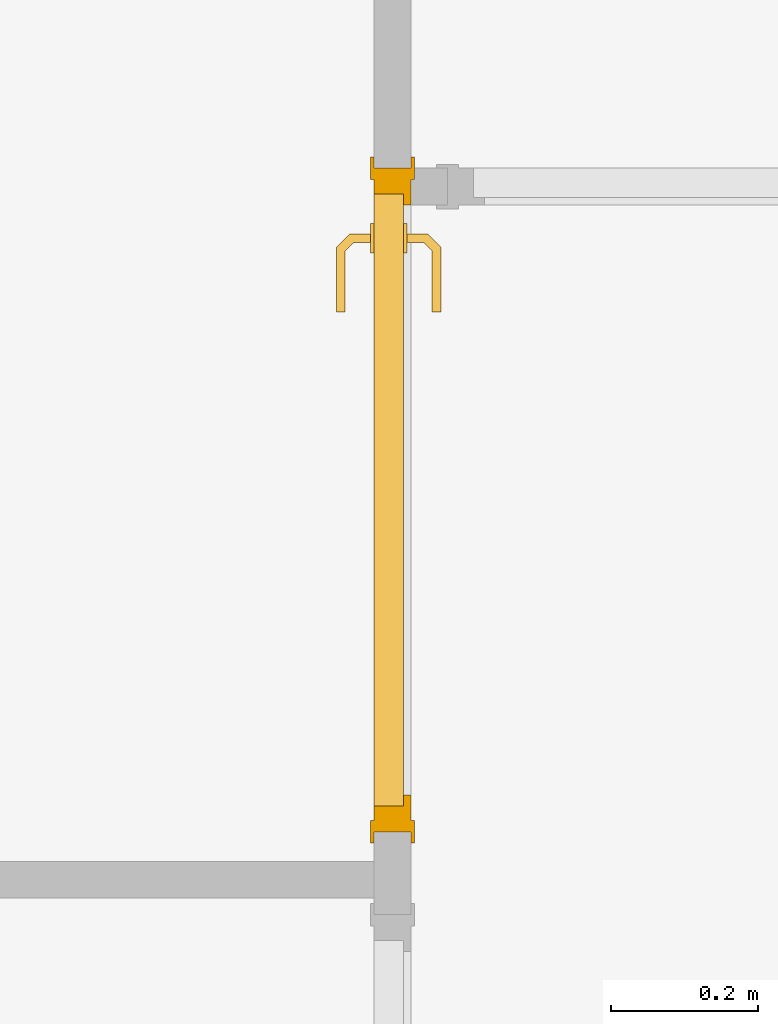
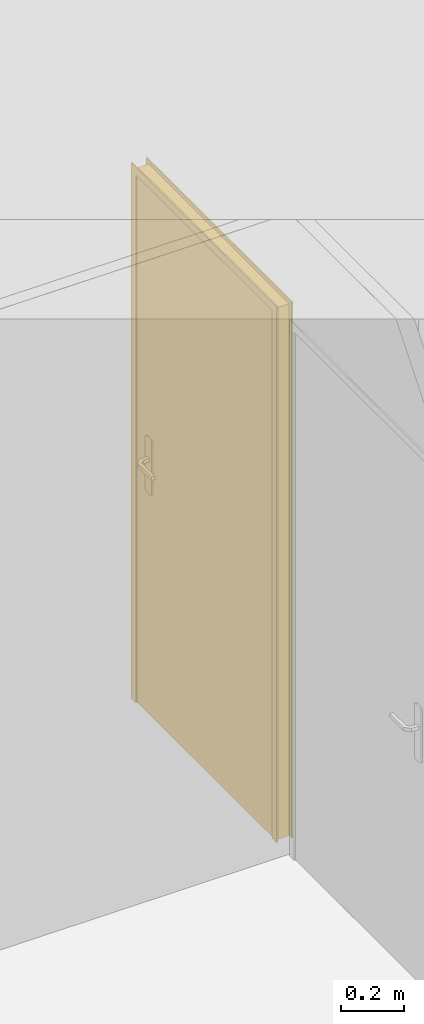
# One storey, part 11 of 14: 1 door.
"""IFC2X3 building model written with IfcOpenShell, lengths in millimetres."""

from ifc_helpers import new_model, entity, si_unit, converted_unit, direction, frame, origin, origin_with_axes, place, context, project, spatial, faceted_brep, element, save


model = new_model("IFC2X3")

# Units and contexts
model_context = context("Model", 3, precision=1e-05, world=origin(), true_north=direction((0.0, 1.0, 0.0)))
ifc_project = project(units=[si_unit("LENGTHUNIT", "METRE", prefix="MILLI"), si_unit("AREAUNIT", "SQUARE_METRE"), si_unit("VOLUMEUNIT", "CUBIC_METRE"), converted_unit("PLANEANGLEUNIT", "DEGREE", entity("IfcPlaneAngleMeasure", 0.01745), si_unit("PLANEANGLEUNIT", "RADIAN"), dimensions=[0, 0, 0, 0, 0, 0, 0]), si_unit("SOLIDANGLEUNIT", "STERADIAN"), si_unit("MASSUNIT", "GRAM"), si_unit("TIMEUNIT", "SECOND"), si_unit("THERMODYNAMICTEMPERATUREUNIT", "DEGREE_CELSIUS"), si_unit("LUMINOUSINTENSITYUNIT", "LUMEN")], contexts=[model_context])

# Site, building, storey
placement = place(None, origin_with_axes())
site_placement = place(placement, frame((11636.08881703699, 2815.7442167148, 4.768371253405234e-06), z_axis=(0.0, 0.0, 1.0), x_axis=(1.0, 0.0, 0.0)))
site = spatial("IfcSite", under=ifc_project, at=site_placement, Name="Surface", CompositionType="ELEMENT")
building_placement = place(placement, origin_with_axes())
building = spatial("IfcBuilding", under=site, at=building_placement, Name="Default Building", CompositionType="ELEMENT")
storey_placement = place(building_placement, origin_with_axes())
storey = spatial("IfcBuildingStorey", under=building, at=storey_placement, Name="Plan étage", CompositionType="ELEMENT", Elevation=0.0)

# Door
door_placement = place(storey_placement, frame((11636.08881703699, 2815.7442167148, 4.768371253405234e-06), z_axis=(0.0, 0.0, 1.0), x_axis=(1.0, 0.0, 0.0)))
element("IfcDoor", 1, at=door_placement, inside=storey, Name="IfcDoor - Int. Simple:PP (0.83m x 2.04m)", context=model_context, shape_type="Brep", body=[
    faceted_brep([(-1711.088818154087, 2369.255785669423, 2740.000042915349), (-1706.088819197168, 2399.255786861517, 2740.000042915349), (-1706.088819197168, 2369.255785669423, 2740.000042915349), (-1711.088818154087, 2399.255786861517, 2740.000042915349), (-1711.088818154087, 1499.255780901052, 2740.000042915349), (-1706.088819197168, 1469.255779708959, 2740.000042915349), (-1711.088818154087, 1469.255779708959, 2740.000042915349), (-1706.088819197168, 1499.255780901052, 2740.000042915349), (-1711.088818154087, 2369.255785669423, 4799.99998569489), (-1706.088819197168, 1499.255780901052, 4799.99998569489), (-1711.088818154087, 1499.255780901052, 4799.99998569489), (-1706.088819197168, 2369.255785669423, 4799.99998569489), (-1706.088819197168, 2399.255786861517, 4829.99995708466), (-1711.088818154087, 1469.255779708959, 4829.99995708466), (-1706.088819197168, 1469.255779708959, 4829.99995708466), (-1711.088818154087, 2399.255786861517, 4829.99995708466), (-1656.08881845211, 2369.255785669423, 4799.99998569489), (-1651.088819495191, 1499.255780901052, 4799.99998569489), (-1656.08881845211, 1499.255780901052, 4799.99998569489), (-1651.088819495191, 2369.255785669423, 4799.99998569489), (-1651.088819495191, 2399.255786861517, 4829.99995708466), (-1656.08881845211, 1469.255779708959, 4829.99995708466), (-1651.088819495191, 1469.255779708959, 4829.99995708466), (-1656.08881845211, 2399.255786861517, 4829.99995708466), (-1656.08881845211, 1469.255779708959, 2740.000042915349), (-1651.088819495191, 1469.255779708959, 2740.000042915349), (-1651.088819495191, 1499.255780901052, 2740.000042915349), (-1656.08881845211, 1499.255780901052, 2740.000042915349), (-1656.08881845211, 2369.255785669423, 2740.000042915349), (-1651.088819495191, 2369.255785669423, 2740.000042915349), (-1651.088819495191, 2399.255786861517, 2740.000042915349), (-1656.08881845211, 2399.255786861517, 2740.000042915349), (-1706.088819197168, 2349.255774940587, 4780.000004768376), (-1666.088819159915, 1519.255791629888, 4780.000004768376), (-1706.088819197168, 1519.255791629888, 4780.000004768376), (-1666.088819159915, 2349.255774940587, 4780.000004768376), (-1666.088819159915, 2334.255789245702, 4765.000019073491), (-1656.08881845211, 1534.255777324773, 4765.000019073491), (-1666.088819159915, 1534.255777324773, 4765.000019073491), (-1656.08881845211, 2334.255789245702, 4765.000019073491), (-1656.08881845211, 2384.255771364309, 4814.999971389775), (-1706.088819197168, 1484.255795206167, 4814.999971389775), (-1656.08881845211, 1484.255795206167, 4814.999971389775), (-1706.088819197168, 2384.255771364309, 4814.999971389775), (-1666.088819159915, 1519.255791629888, 2740.000042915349), (-1706.088819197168, 1519.255791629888, 2740.000042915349), (-1656.08881845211, 1534.255777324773, 2740.000042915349), (-1666.088819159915, 1534.255777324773, 2740.000042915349), (-1656.08881845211, 1484.255795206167, 2740.000042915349), (-1706.088819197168, 1484.255795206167, 2740.000042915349), (-1706.088819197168, 2349.255774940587, 2740.000042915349), (-1706.088819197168, 2384.255771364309, 2740.000042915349), (-1666.088819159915, 2349.255774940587, 2740.000042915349), (-1666.088819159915, 2334.255789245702, 2740.000042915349), (-1656.08881845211, 2334.255789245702, 2740.000042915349), (-1656.08881845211, 2384.255771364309, 2740.000042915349), (-1666.088819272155, 2349.255774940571, 4779.999980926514), (-1706.088818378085, 2349.255774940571, 2740.000019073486), (-1706.088818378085, 2349.255774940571, 4779.999980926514), (-1666.088819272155, 2349.255774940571, 2740.000019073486), (-1706.088818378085, 1519.255791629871, 2740.000019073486), (-1666.088819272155, 1519.255791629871, 2740.000019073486), (-1706.088818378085, 1519.255791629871, 4779.999980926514), (-1666.088819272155, 1519.255791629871, 4779.999980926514), (-1619.093037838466, 2275.094689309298, 3732.219558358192), (-1621.118336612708, 2231.313438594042, 3732.121313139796), (-1623.14362793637, 2273.41687630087, 3732.219558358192), (-1615.118331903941, 2236.810579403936, 3732.999999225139), (-1623.14362793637, 2189.210000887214, 3732.219558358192), (-1627.118333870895, 2230.490263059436, 3732.999999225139), (-1619.093037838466, 2189.210000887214, 3732.219558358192), (-1627.118333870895, 2189.210000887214, 3732.999999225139), (-1627.118333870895, 2271.770501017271, 3732.999999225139), (-1615.118331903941, 2276.741064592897, 3732.999999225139), (-1615.118331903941, 2189.210000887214, 3732.999999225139), (-1615.118331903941, 2236.810577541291, 3747.000001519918), (-1615.118331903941, 2189.210000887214, 3747.000001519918), (-1615.118331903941, 2276.741064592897, 3747.000001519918), (-1619.093037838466, 2189.210000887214, 3747.780442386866), (-1621.118336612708, 2231.313438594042, 3747.878685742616), (-1623.14362793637, 2189.210000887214, 3747.780442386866), (-1623.14362793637, 2273.41687630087, 3747.780442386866), (-1627.118333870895, 2230.49025002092, 3747.000001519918), (-1619.093037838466, 2275.094689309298, 3747.780442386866), (-1627.118333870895, 2189.210000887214, 3747.000001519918), (-1627.118333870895, 2271.770501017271, 3747.000001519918), (-1638.60361247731, 2283.255781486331, 3732.999999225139), (-1636.957239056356, 2287.230483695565, 3732.219558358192), (-1635.279427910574, 2291.28108124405, 3732.219558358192), (-1633.633050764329, 2295.255783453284, 3732.999999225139), (-1633.633050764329, 2295.255783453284, 3747.000001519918), (-1635.279427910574, 2291.28108124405, 3747.780442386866), (-1636.957239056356, 2287.230483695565, 3747.780442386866), (-1638.60361247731, 2283.255781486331, 3747.000001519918), (-1661.088818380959, 2283.255781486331, 3732.999999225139), (-1661.088818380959, 2287.230483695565, 3732.219558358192), (-1661.088818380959, 2291.28108124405, 3732.219558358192), (-1661.088818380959, 2295.255783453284, 3732.999999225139), (-1661.088818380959, 2295.255783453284, 3747.000001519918), (-1661.088818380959, 2291.28108124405, 3747.780442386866), (-1661.088818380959, 2287.230483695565, 3747.780442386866), (-1661.088818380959, 2283.255781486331, 3747.000001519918), (-1757.116980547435, 2189.237143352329, 3747.000001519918), (-1757.116980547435, 2236.94808266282, 3732.999999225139), (-1757.116980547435, 2189.237143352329, 3732.999999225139), (-1757.116980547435, 2276.878572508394, 3732.999999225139), (-1757.116980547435, 2276.878572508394, 3747.000001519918), (-1753.142274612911, 2189.237143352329, 3732.219558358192), (-1751.116983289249, 2231.395763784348, 3732.121313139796), (-1749.091684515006, 2189.237143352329, 3732.219558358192), (-1749.091684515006, 2273.554386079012, 3732.219558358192), (-1745.116978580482, 2230.572577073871, 3732.999999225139), (-1753.142274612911, 2275.232197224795, 3732.219558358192), (-1745.116978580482, 2189.237143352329, 3732.999999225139), (-1745.116978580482, 2271.908010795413, 3732.999999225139), (-1745.116978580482, 2230.572577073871, 3747.000001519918), (-1745.116978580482, 2271.908010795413, 3747.000001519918), (-1745.116978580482, 2189.237143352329, 3747.000001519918), (-1753.142274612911, 2275.232197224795, 3747.780442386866), (-1751.116975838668, 2231.395763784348, 3747.878685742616), (-1749.091684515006, 2273.554386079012, 3747.780442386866), (-1757.116980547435, 2236.94808638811, 3747.000001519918), (-1749.091684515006, 2189.237143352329, 3747.780442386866), (-1753.142274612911, 2189.237143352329, 3747.780442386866), (-1738.739769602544, 2295.255783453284, 3747.000001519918), (-1738.739769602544, 2295.255783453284, 3732.999999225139), (-1737.09339618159, 2291.28108124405, 3732.219558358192), (-1735.415581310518, 2287.230483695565, 3732.219558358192), (-1733.769207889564, 2283.255781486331, 3732.999999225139), (-1733.769207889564, 2283.255781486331, 3747.000001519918), (-1735.415581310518, 2287.230483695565, 3747.780442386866), (-1737.09339618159, 2291.28108124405, 3747.780442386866), (-1711.088819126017, 2295.255783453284, 3747.000001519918), (-1711.088819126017, 2295.255783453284, 3732.999999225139), (-1711.088819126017, 2291.28108124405, 3732.219558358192), (-1711.088819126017, 2287.230483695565, 3732.219558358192), (-1711.088819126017, 2283.255781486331, 3732.999999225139), (-1711.088819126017, 2283.255781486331, 3747.000001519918), (-1711.088819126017, 2287.230483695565, 3747.780442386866), (-1711.088819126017, 2291.28108124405, 3747.780442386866), (-1666.088819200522, 2269.255782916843, 3819.999996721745), (-1661.088818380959, 2269.255782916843, 3610.000003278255), (-1661.088818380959, 2269.255782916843, 3819.999996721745), (-1666.088819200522, 2269.255782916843, 3610.000003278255), (-1661.088818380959, 2278.903021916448, 3606.003981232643), (-1666.088819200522, 2278.903021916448, 3606.003981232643), (-1661.088818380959, 2289.255782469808, 3604.641016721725), (-1666.088819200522, 2289.255782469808, 3604.641016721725), (-1666.088819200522, 2299.608546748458, 3606.003981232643), (-1661.088818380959, 2299.608546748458, 3606.003981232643), (-1661.088818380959, 2309.255782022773, 3610.000003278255), (-1666.088819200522, 2309.255782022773, 3610.000003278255), (-1661.088818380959, 2309.255782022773, 3819.999996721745), (-1666.088819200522, 2309.255782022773, 3819.999996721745), (-1661.088818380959, 2299.608546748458, 3823.996018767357), (-1666.088819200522, 2299.608546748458, 3823.996018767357), (-1661.088818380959, 2289.255782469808, 3825.358983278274), (-1666.088819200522, 2289.255782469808, 3825.358983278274), (-1666.088819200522, 2278.903021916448, 3823.996018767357), (-1661.088818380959, 2278.903021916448, 3823.996018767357), (-1711.088819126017, 2309.255782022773, 3610.000003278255), (-1706.088818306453, 2309.255782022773, 3819.999996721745), (-1706.088818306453, 2309.255782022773, 3610.000003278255), (-1711.088819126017, 2309.255782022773, 3819.999996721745), (-1706.088818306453, 2299.608546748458, 3823.996018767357), (-1711.088819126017, 2299.608546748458, 3823.996018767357), (-1706.088818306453, 2289.255782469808, 3825.358983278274), (-1711.088819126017, 2289.255782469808, 3825.358983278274), (-1711.088819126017, 2278.903021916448, 3823.996018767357), (-1706.088818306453, 2278.903021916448, 3823.996018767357), (-1706.088818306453, 2269.255782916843, 3819.999996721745), (-1711.088819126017, 2269.255782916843, 3819.999996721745), (-1706.088818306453, 2269.255782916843, 3610.000003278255), (-1711.088819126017, 2269.255782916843, 3610.000003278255), (-1706.088818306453, 2278.903021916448, 3606.003981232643), (-1711.088819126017, 2278.903021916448, 3606.003981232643), (-1706.088818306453, 2289.255782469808, 3604.641016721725), (-1711.088819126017, 2289.255782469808, 3604.641016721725), (-1711.088819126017, 2299.608546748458, 3606.003981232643), (-1706.088818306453, 2299.608546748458, 3606.003981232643)], [[[0, 1, 2]], [[0, 3, 1]], [[4, 5, 6]], [[4, 7, 5]], [[8, 9, 10]], [[8, 11, 9]], [[12, 13, 14]], [[12, 15, 13]], [[14, 6, 5]], [[14, 13, 6]], [[10, 7, 4]], [[10, 9, 7]], [[0, 11, 8]], [[0, 2, 11]], [[12, 11, 1]], [[12, 9, 11]], [[14, 9, 12]], [[14, 7, 9]], [[7, 14, 5]], [[1, 11, 2]], [[1, 15, 12]], [[1, 3, 15]], [[13, 10, 6]], [[13, 8, 10]], [[15, 8, 13]], [[15, 0, 8]], [[0, 15, 3]], [[6, 10, 4]], [[16, 17, 18]], [[16, 19, 17]], [[20, 21, 22]], [[20, 23, 21]], [[22, 24, 25]], [[22, 21, 24]], [[18, 26, 27]], [[18, 17, 26]], [[27, 25, 24]], [[27, 26, 25]], [[28, 19, 16]], [[28, 29, 19]], [[20, 19, 30]], [[20, 17, 19]], [[22, 17, 20]], [[22, 26, 17]], [[26, 22, 25]], [[30, 19, 29]], [[30, 23, 20]], [[30, 31, 23]], [[21, 18, 24]], [[21, 16, 18]], [[23, 16, 21]], [[23, 28, 16]], [[28, 23, 31]], [[24, 18, 27]], [[28, 30, 29]], [[28, 31, 30]], [[32, 33, 34]], [[32, 35, 33]], [[36, 37, 38]], [[36, 39, 37]], [[40, 41, 42]], [[40, 43, 41]], [[34, 44, 45]], [[34, 33, 44]], [[38, 46, 47]], [[38, 37, 46]], [[46, 44, 47]], [[48, 44, 46]], [[48, 45, 44]], [[45, 48, 49]], [[42, 49, 48]], [[42, 41, 49]], [[41, 34, 49]], [[41, 32, 34]], [[43, 32, 41]], [[43, 50, 32]], [[50, 43, 51]], [[49, 34, 45]], [[50, 35, 32]], [[50, 52, 35]], [[33, 38, 44]], [[33, 36, 38]], [[35, 36, 33]], [[35, 53, 36]], [[53, 35, 52]], [[44, 38, 47]], [[53, 39, 36]], [[53, 54, 39]], [[40, 54, 55]], [[40, 39, 54]], [[40, 37, 39]], [[42, 37, 40]], [[42, 46, 37]], [[46, 42, 48]], [[55, 43, 40]], [[55, 51, 43]], [[53, 55, 54]], [[52, 55, 53]], [[50, 55, 52]], [[55, 50, 51]], [[56, 57, 58]], [[56, 59, 57]], [[59, 60, 57]], [[59, 61, 60]], [[61, 62, 60]], [[61, 63, 62]], [[63, 58, 62]], [[63, 56, 58]], [[58, 60, 62]], [[58, 57, 60]], [[56, 61, 59]], [[56, 63, 61]], [[64, 65, 66]], [[64, 67, 65]], [[68, 69, 65]], [[70, 68, 65]], [[69, 68, 71]], [[72, 66, 69]], [[65, 69, 66]], [[64, 73, 67]], [[74, 70, 67]], [[67, 70, 65]], [[74, 75, 76]], [[67, 75, 74]], [[73, 75, 67]], [[75, 73, 77]], [[78, 79, 80]], [[81, 82, 79]], [[83, 81, 79]], [[75, 83, 79]], [[77, 83, 75]], [[76, 75, 78]], [[82, 84, 80]], [[85, 82, 81]], [[75, 79, 78]], [[82, 80, 79]], [[84, 69, 71]], [[84, 72, 69]], [[82, 72, 84]], [[72, 82, 85]], [[76, 70, 74]], [[78, 70, 76]], [[78, 68, 70]], [[80, 68, 78]], [[80, 71, 68]], [[71, 80, 84]], [[66, 86, 87]], [[66, 72, 86]], [[73, 88, 89]], [[73, 64, 88]], [[89, 77, 73]], [[89, 90, 77]], [[83, 90, 91]], [[83, 77, 90]], [[85, 92, 93]], [[85, 81, 92]], [[93, 72, 85]], [[93, 86, 72]], [[87, 94, 95]], [[87, 86, 94]], [[87, 64, 66]], [[87, 88, 64]], [[95, 88, 87]], [[88, 95, 96]], [[89, 96, 97]], [[89, 88, 96]], [[97, 90, 89]], [[97, 98, 90]], [[91, 98, 99]], [[91, 90, 98]], [[83, 92, 81]], [[91, 92, 83]], [[91, 100, 92]], [[100, 91, 99]], [[93, 100, 101]], [[93, 92, 100]], [[101, 86, 93]], [[101, 94, 86]], [[96, 98, 97]], [[96, 99, 98]], [[95, 99, 96]], [[95, 100, 99]], [[94, 100, 95]], [[100, 94, 101]], [[102, 103, 104]], [[102, 105, 103]], [[102, 106, 105]], [[107, 108, 109]], [[110, 111, 108]], [[112, 110, 108]], [[103, 112, 108]], [[105, 112, 103]], [[104, 103, 107]], [[111, 113, 109]], [[114, 111, 110]], [[103, 108, 107]], [[111, 109, 108]], [[115, 114, 116]], [[117, 114, 115]], [[117, 111, 114]], [[111, 117, 113]], [[118, 119, 120]], [[118, 121, 119]], [[122, 115, 119]], [[123, 122, 119]], [[115, 122, 117]], [[116, 120, 115]], [[119, 115, 120]], [[118, 106, 121]], [[102, 123, 121]], [[121, 123, 119]], [[117, 109, 113]], [[122, 109, 117]], [[122, 107, 109]], [[123, 107, 122]], [[123, 104, 107]], [[104, 123, 102]], [[124, 105, 106]], [[124, 125, 105]], [[112, 125, 126]], [[112, 105, 125]], [[114, 127, 128]], [[114, 110, 127]], [[128, 116, 114]], [[128, 129, 116]], [[120, 129, 130]], [[120, 116, 129]], [[106, 131, 124]], [[106, 118, 131]], [[132, 125, 124]], [[132, 133, 125]], [[126, 133, 134]], [[126, 125, 133]], [[112, 127, 110]], [[126, 127, 112]], [[126, 135, 127]], [[135, 126, 134]], [[128, 135, 136]], [[128, 127, 135]], [[136, 129, 128]], [[136, 137, 129]], [[130, 137, 138]], [[130, 129, 137]], [[130, 118, 120]], [[130, 131, 118]], [[138, 131, 130]], [[131, 138, 139]], [[124, 139, 132]], [[124, 131, 139]], [[136, 138, 137]], [[135, 138, 136]], [[135, 139, 138]], [[134, 139, 135]], [[134, 132, 139]], [[132, 134, 133]], [[140, 141, 142]], [[140, 143, 141]], [[144, 143, 145]], [[144, 141, 143]], [[146, 145, 147]], [[146, 144, 145]], [[148, 146, 147]], [[148, 149, 146]], [[150, 148, 151]], [[150, 149, 148]], [[151, 152, 150]], [[151, 153, 152]], [[154, 153, 155]], [[154, 152, 153]], [[156, 155, 157]], [[156, 154, 155]], [[158, 156, 157]], [[158, 159, 156]], [[142, 158, 140]], [[142, 159, 158]], [[146, 141, 144]], [[149, 141, 146]], [[150, 141, 149]], [[150, 142, 141]], [[150, 159, 142]], [[150, 156, 159]], [[150, 154, 156]], [[154, 150, 152]], [[157, 140, 158]], [[155, 140, 157]], [[153, 140, 155]], [[153, 143, 140]], [[153, 145, 143]], [[153, 147, 145]], [[153, 148, 147]], [[148, 153, 151]], [[160, 161, 162]], [[160, 163, 161]], [[164, 163, 165]], [[164, 161, 163]], [[166, 165, 167]], [[166, 164, 165]], [[168, 166, 167]], [[168, 169, 166]], [[170, 168, 171]], [[170, 169, 168]], [[171, 172, 170]], [[171, 173, 172]], [[174, 173, 175]], [[174, 172, 173]], [[176, 175, 177]], [[176, 174, 175]], [[178, 176, 177]], [[178, 179, 176]], [[162, 178, 160]], [[162, 179, 178]], [[176, 172, 174]], [[179, 172, 176]], [[162, 172, 179]], [[162, 170, 172]], [[162, 169, 170]], [[162, 166, 169]], [[162, 164, 166]], [[164, 162, 161]], [[167, 171, 168]], [[165, 171, 167]], [[163, 171, 165]], [[163, 173, 171]], [[163, 175, 173]], [[163, 177, 175]], [[163, 178, 177]], [[178, 163, 160]]]),
])

save(model, "model.ifc")
